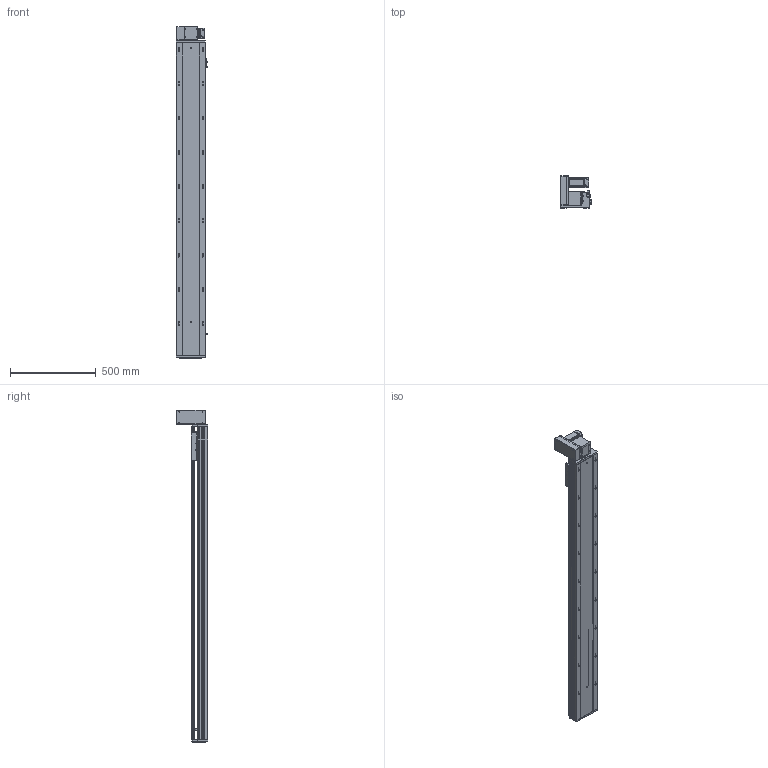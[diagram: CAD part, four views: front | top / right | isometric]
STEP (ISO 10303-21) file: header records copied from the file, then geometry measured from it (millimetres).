
FILE_DESCRIPTION (( 'STEP AP203' ), '1' );
FILE_NAME ('RY170-T-300-UL-P400W.SLDASM_1550.step', '2021-03-02T02:13:39', ( '盈信电脑' ), ( '东莞市道滘镇水果街19号' ), 'SwSTEP 2.0', 'SolidWorks 2012', '' );
FILE_SCHEMA (( 'CONFIG_CONTROL_DESIGN' ));
Length unit declared in the file: millimetre
Products named in the file (18): RY170-T蹟翐M4; RY170-T-300-UL-P400W.SLDASM_1550; 15; RY170肮祭謫萇儂欶; RY170同步轮电机安装板(400W); RY120-T主同步轮轴承压盖; 滅袉蝶18-10; RY170-T肮祭湍揤踡輸1; RY170-T肮祭謫裔啣; RY170翋肮祭謫釱; RY170-T肮祭湍揤踡輸2; RY170綴裔啣; 覜茼ん672; RY170外置感应片(200共用）; RY170肮祭謫ヶ裔啣; RY170-T-300肮祭謫倰第菁釱-DL_1550; RY170肮祭湍臏賑輸; RY170-T-300肮祭謫倰第裔啣-DL_1550
Assembly tree (20 placements, depth 2):
  RY170-T-300-UL-P400W.SLDASM_1550
    RY170-T-300肮祭謫倰第菁釱-DL_1550
    RY170肮祭湍臏賑輸
    RY170-T-300肮祭謫倰第裔啣-DL_1550
    RY170綴裔啣
    覜茼ん672  x3
    RY170外置感应片(200共用）
    RY170肮祭謫ヶ裔啣
    RY170翋肮祭謫釱
    RY170-T肮祭湍揤踡輸1
    RY170-T肮祭湍揤踡輸2
    RY170-T肮祭謫裔啣
    滅袉蝶18-10  x2
    RY120-T主同步轮轴承压盖
    RY170肮祭謫萇儂欶
    RY170同步轮电机安装板(400W)
    RY170-T蹟翐M4
    15
Bounding box: 183.7 x 184 x 1938 mm (x, y, z)
Volume: 9176673.6 mm3; surface area: 3133632.2 mm2
Topology: 20 solids, 20 shells, 2693 faces, 7522 edges, 4793 vertices
Faces by surface type: cylinder 1238, plane 1149, cone 276, bspline 30
Entity records: 85984 total; most frequent: CARTESIAN_POINT 19368, ORIENTED_EDGE 13608, DIRECTION 13378, EDGE_CURVE 6804, AXIS2_PLACEMENT_3D 4725, VERTEX_POINT 4461, LINE 3928, VECTOR 3928
